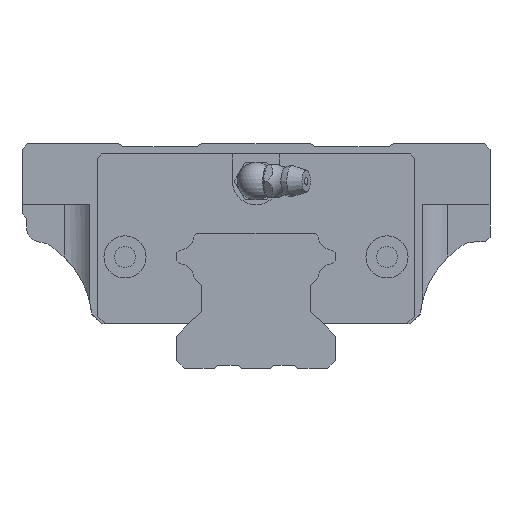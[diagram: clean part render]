
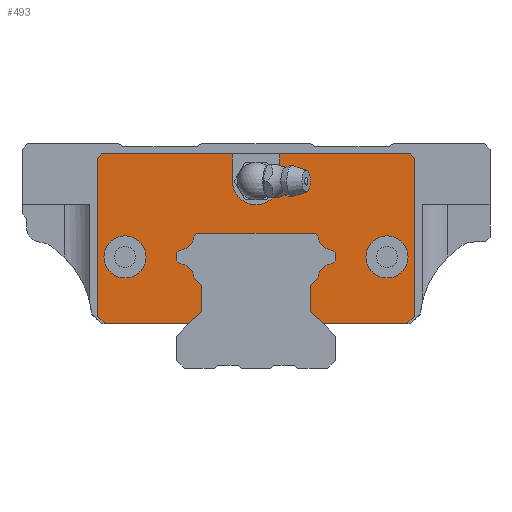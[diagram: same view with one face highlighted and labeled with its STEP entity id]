
A CAD part, front view. The second image highlights one B-rep face of the part: STEP entity #493.
In plain terms, the highlighted planar face has unit normal (0, -1, 0).
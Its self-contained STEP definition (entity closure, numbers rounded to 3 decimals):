
#206=FACE_BOUND('',#1041,.T.);
#207=FACE_BOUND('',#1042,.T.);
#317=CIRCLE('',#3940,3.5);
#319=CIRCLE('',#3946,3.5);
#321=CIRCLE('',#3952,3.5);
#323=CIRCLE('',#3958,3.5);
#331=CIRCLE('',#3996,4.5);
#332=CIRCLE('',#3997,4.5);
#333=CIRCLE('',#3998,5.05);
#493=ADVANCED_FACE('',(#206,#207,#836),#662,.F.);
#662=PLANE('',#3999);
#836=FACE_OUTER_BOUND('',#1043,.T.);
#1041=EDGE_LOOP('',(#1720));
#1042=EDGE_LOOP('',(#1721));
#1043=EDGE_LOOP('',(#1722,#1723,#1724,#1725,#1726,#1727,#1728,#1729,#1730,
#1731,#1732,#1733,#1734,#1735,#1736,#1737,#1738,#1739,#1740,#1741,#1742,
#1743,#1744,#1745,#1746,#1747,#1748,#1749,#1750,#1751,#1752,#1753));
#1720=ORIENTED_EDGE('',*,*,#2884,.F.);
#1721=ORIENTED_EDGE('',*,*,#2885,.F.);
#1722=ORIENTED_EDGE('',*,*,#2886,.F.);
#1723=ORIENTED_EDGE('',*,*,#2887,.F.);
#1724=ORIENTED_EDGE('',*,*,#2888,.T.);
#1725=ORIENTED_EDGE('',*,*,#2881,.F.);
#1726=ORIENTED_EDGE('',*,*,#2889,.F.);
#1727=ORIENTED_EDGE('',*,*,#2890,.F.);
#1728=ORIENTED_EDGE('',*,*,#2891,.T.);
#1729=ORIENTED_EDGE('',*,*,#2786,.T.);
#1730=ORIENTED_EDGE('',*,*,#2790,.T.);
#1731=ORIENTED_EDGE('',*,*,#2793,.F.);
#1732=ORIENTED_EDGE('',*,*,#2796,.F.);
#1733=ORIENTED_EDGE('',*,*,#2799,.T.);
#1734=ORIENTED_EDGE('',*,*,#2802,.F.);
#1735=ORIENTED_EDGE('',*,*,#2805,.F.);
#1736=ORIENTED_EDGE('',*,*,#2808,.T.);
#1737=ORIENTED_EDGE('',*,*,#2811,.T.);
#1738=ORIENTED_EDGE('',*,*,#2814,.T.);
#1739=ORIENTED_EDGE('',*,*,#2817,.T.);
#1740=ORIENTED_EDGE('',*,*,#2820,.F.);
#1741=ORIENTED_EDGE('',*,*,#2823,.T.);
#1742=ORIENTED_EDGE('',*,*,#2826,.F.);
#1743=ORIENTED_EDGE('',*,*,#2829,.T.);
#1744=ORIENTED_EDGE('',*,*,#2832,.T.);
#1745=ORIENTED_EDGE('',*,*,#2835,.T.);
#1746=ORIENTED_EDGE('',*,*,#2838,.T.);
#1747=ORIENTED_EDGE('',*,*,#2841,.T.);
#1748=ORIENTED_EDGE('',*,*,#2844,.F.);
#1749=ORIENTED_EDGE('',*,*,#2846,.F.);
#1750=ORIENTED_EDGE('',*,*,#2892,.T.);
#1751=ORIENTED_EDGE('',*,*,#2893,.F.);
#1752=ORIENTED_EDGE('',*,*,#2894,.F.);
#1753=ORIENTED_EDGE('',*,*,#2878,.F.);
#2371=VERTEX_POINT('',#5822);
#2372=VERTEX_POINT('',#5824);
#2374=VERTEX_POINT('',#5830);
#2376=VERTEX_POINT('',#5836);
#2378=VERTEX_POINT('',#5842);
#2380=VERTEX_POINT('',#5848);
#2382=VERTEX_POINT('',#5854);
#2384=VERTEX_POINT('',#5860);
#2386=VERTEX_POINT('',#5866);
#2388=VERTEX_POINT('',#5872);
#2390=VERTEX_POINT('',#5878);
#2392=VERTEX_POINT('',#5884);
#2394=VERTEX_POINT('',#5890);
#2396=VERTEX_POINT('',#5896);
#2398=VERTEX_POINT('',#5902);
#2400=VERTEX_POINT('',#5908);
#2402=VERTEX_POINT('',#5914);
#2404=VERTEX_POINT('',#5920);
#2406=VERTEX_POINT('',#5926);
#2408=VERTEX_POINT('',#5932);
#2410=VERTEX_POINT('',#5938);
#2411=VERTEX_POINT('',#5942);
#2425=VERTEX_POINT('',#6013);
#2426=VERTEX_POINT('',#6015);
#2427=VERTEX_POINT('',#6018);
#2428=VERTEX_POINT('',#6020);
#2430=VERTEX_POINT('',#6026);
#2431=VERTEX_POINT('',#6028);
#2432=VERTEX_POINT('',#6030);
#2433=VERTEX_POINT('',#6032);
#2434=VERTEX_POINT('',#6035);
#2435=VERTEX_POINT('',#6037);
#2436=VERTEX_POINT('',#6040);
#2437=VERTEX_POINT('',#6042);
#2786=EDGE_CURVE('',#2372,#2371,#3239,.T.);
#2790=EDGE_CURVE('',#2371,#2374,#3243,.T.);
#2793=EDGE_CURVE('',#2376,#2374,#3246,.T.);
#2796=EDGE_CURVE('',#2378,#2376,#3249,.T.);
#2799=EDGE_CURVE('',#2378,#2380,#317,.T.);
#2802=EDGE_CURVE('',#2382,#2380,#3253,.T.);
#2805=EDGE_CURVE('',#2384,#2382,#3256,.T.);
#2808=EDGE_CURVE('',#2384,#2386,#3259,.T.);
#2811=EDGE_CURVE('',#2386,#2388,#319,.T.);
#2814=EDGE_CURVE('',#2388,#2390,#3263,.T.);
#2817=EDGE_CURVE('',#2390,#2392,#3266,.T.);
#2820=EDGE_CURVE('',#2394,#2392,#3269,.T.);
#2823=EDGE_CURVE('',#2394,#2396,#321,.T.);
#2826=EDGE_CURVE('',#2398,#2396,#3273,.T.);
#2829=EDGE_CURVE('',#2398,#2400,#3276,.T.);
#2832=EDGE_CURVE('',#2400,#2402,#3279,.T.);
#2835=EDGE_CURVE('',#2402,#2404,#323,.T.);
#2838=EDGE_CURVE('',#2404,#2406,#3283,.T.);
#2841=EDGE_CURVE('',#2406,#2408,#3286,.T.);
#2844=EDGE_CURVE('',#2410,#2408,#3289,.T.);
#2846=EDGE_CURVE('',#2411,#2410,#3291,.T.);
#2878=EDGE_CURVE('',#2425,#2426,#3316,.T.);
#2881=EDGE_CURVE('',#2427,#2428,#3319,.T.);
#2884=EDGE_CURVE('',#2430,#2430,#331,.T.);
#2885=EDGE_CURVE('',#2431,#2431,#332,.T.);
#2886=EDGE_CURVE('',#2432,#2425,#3322,.T.);
#2887=EDGE_CURVE('',#2433,#2432,#333,.T.);
#2888=EDGE_CURVE('',#2433,#2428,#3323,.T.);
#2889=EDGE_CURVE('',#2434,#2427,#3324,.T.);
#2890=EDGE_CURVE('',#2435,#2434,#3325,.T.);
#2891=EDGE_CURVE('',#2435,#2372,#3326,.T.);
#2892=EDGE_CURVE('',#2411,#2436,#3327,.T.);
#2893=EDGE_CURVE('',#2437,#2436,#3328,.T.);
#2894=EDGE_CURVE('',#2426,#2437,#3329,.T.);
#3239=LINE('',#5823,#3605);
#3243=LINE('',#5831,#3609);
#3246=LINE('',#5837,#3612);
#3249=LINE('',#5843,#3615);
#3253=LINE('',#5855,#3619);
#3256=LINE('',#5861,#3622);
#3259=LINE('',#5867,#3625);
#3263=LINE('',#5879,#3629);
#3266=LINE('',#5885,#3632);
#3269=LINE('',#5891,#3635);
#3273=LINE('',#5903,#3639);
#3276=LINE('',#5909,#3642);
#3279=LINE('',#5915,#3645);
#3283=LINE('',#5927,#3649);
#3286=LINE('',#5933,#3652);
#3289=LINE('',#5939,#3655);
#3291=LINE('',#5943,#3657);
#3316=LINE('',#6014,#3682);
#3319=LINE('',#6019,#3685);
#3322=LINE('',#6029,#3688);
#3323=LINE('',#6033,#3689);
#3324=LINE('',#6034,#3690);
#3325=LINE('',#6036,#3691);
#3326=LINE('',#6038,#3692);
#3327=LINE('',#6039,#3693);
#3328=LINE('',#6041,#3694);
#3329=LINE('',#6043,#3695);
#3605=VECTOR('',#4513,1.);
#3609=VECTOR('',#4519,1.);
#3612=VECTOR('',#4524,1.);
#3615=VECTOR('',#4529,1.);
#3619=VECTOR('',#4541,1.);
#3622=VECTOR('',#4546,1.);
#3625=VECTOR('',#4551,1.);
#3629=VECTOR('',#4563,1.);
#3632=VECTOR('',#4568,1.);
#3635=VECTOR('',#4573,1.);
#3639=VECTOR('',#4585,1.);
#3642=VECTOR('',#4590,1.);
#3645=VECTOR('',#4595,1.);
#3649=VECTOR('',#4607,1.);
#3652=VECTOR('',#4612,1.);
#3655=VECTOR('',#4617,1.);
#3657=VECTOR('',#4621,1.);
#3682=VECTOR('',#4710,1.);
#3685=VECTOR('',#4713,1.);
#3688=VECTOR('',#4722,1.);
#3689=VECTOR('',#4725,1.);
#3690=VECTOR('',#4726,1.);
#3691=VECTOR('',#4727,1.);
#3692=VECTOR('',#4728,1.);
#3693=VECTOR('',#4729,1.);
#3694=VECTOR('',#4730,1.);
#3695=VECTOR('',#4731,1.);
#3940=AXIS2_PLACEMENT_3D('',#5849,#4535,#4536);
#3946=AXIS2_PLACEMENT_3D('',#5873,#4557,#4558);
#3952=AXIS2_PLACEMENT_3D('',#5897,#4579,#4580);
#3958=AXIS2_PLACEMENT_3D('',#5921,#4601,#4602);
#3996=AXIS2_PLACEMENT_3D('',#6025,#4718,#4719);
#3997=AXIS2_PLACEMENT_3D('',#6027,#4720,#4721);
#3998=AXIS2_PLACEMENT_3D('',#6031,#4723,#4724);
#3999=AXIS2_PLACEMENT_3D('',#6044,#4732,#4733);
#4513=DIRECTION('',(1.,0.,0.));
#4519=DIRECTION('',(0.707,0.,0.707));
#4524=DIRECTION('',(0.,0.,-1.));
#4529=DIRECTION('',(0.707,0.,-0.707));
#4535=DIRECTION('',(0.,-1.,0.));
#4536=DIRECTION('',(1.,0.,0.));
#4541=DIRECTION('',(0.707,0.,-0.707));
#4546=DIRECTION('',(0.,0.,-1.));
#4551=DIRECTION('',(0.707,0.,0.707));
#4557=DIRECTION('',(0.,-1.,0.));
#4558=DIRECTION('',(1.,0.,0.));
#4563=DIRECTION('',(0.707,0.,0.707));
#4568=DIRECTION('',(1.,0.,0.));
#4573=DIRECTION('',(-0.707,0.,0.707));
#4579=DIRECTION('',(0.,-1.,0.));
#4580=DIRECTION('',(1.,0.,0.));
#4585=DIRECTION('',(-0.707,0.,0.707));
#4590=DIRECTION('',(0.,0.,-1.));
#4595=DIRECTION('',(-0.707,0.,-0.707));
#4601=DIRECTION('',(0.,-1.,0.));
#4602=DIRECTION('',(1.,0.,0.));
#4607=DIRECTION('',(-0.707,0.,-0.707));
#4612=DIRECTION('',(0.,0.,-1.));
#4617=DIRECTION('',(-0.707,0.,0.707));
#4621=DIRECTION('',(-1.,0.,0.));
#4710=DIRECTION('',(1.,0.,0.));
#4713=DIRECTION('',(1.,0.,0.));
#4718=DIRECTION('',(0.,-1.,0.));
#4719=DIRECTION('',(0.,0.,-1.));
#4720=DIRECTION('',(0.,-1.,0.));
#4721=DIRECTION('',(0.,0.,-1.));
#4722=DIRECTION('',(0.,0.,1.));
#4723=DIRECTION('',(0.,-1.,0.));
#4724=DIRECTION('',(1.,0.,0.));
#4725=DIRECTION('',(0.,0.,1.));
#4726=DIRECTION('',(0.707,0.,0.707));
#4727=DIRECTION('',(0.,0.,1.));
#4728=DIRECTION('',(0.707,0.,-0.707));
#4729=DIRECTION('',(0.707,0.,0.707));
#4730=DIRECTION('',(0.,0.,-1.));
#4731=DIRECTION('',(0.707,0.,-0.707));
#4732=DIRECTION('',(0.,1.,0.));
#4733=DIRECTION('',(0.,0.,-1.));
#5822=CARTESIAN_POINT('',(-14.359,-86.4,-40.5));
#5823=CARTESIAN_POINT('',(-32.218,-86.4,-40.5));
#5824=CARTESIAN_POINT('',(-32.218,-86.4,-40.5));
#5830=CARTESIAN_POINT('',(-11.7,-86.4,-37.841));
#5831=CARTESIAN_POINT('',(-14.359,-86.4,-40.5));
#5836=CARTESIAN_POINT('',(-11.7,-86.4,-32.259));
#5837=CARTESIAN_POINT('',(-11.7,-86.4,-32.259));
#5842=CARTESIAN_POINT('',(-13.204,-86.4,-30.754));
#5843=CARTESIAN_POINT('',(-13.204,-86.4,-30.754));
#5848=CARTESIAN_POINT('',(-16.354,-86.4,-27.604));
#5849=CARTESIAN_POINT('',(-16.688,-86.4,-31.088));
#5854=CARTESIAN_POINT('',(-16.9,-86.4,-27.059));
#5855=CARTESIAN_POINT('',(-16.9,-86.4,-27.059));
#5860=CARTESIAN_POINT('',(-16.9,-86.4,-25.341));
#5861=CARTESIAN_POINT('',(-16.9,-86.4,-25.341));
#5866=CARTESIAN_POINT('',(-16.354,-86.4,-24.796));
#5867=CARTESIAN_POINT('',(-16.9,-86.4,-25.341));
#5872=CARTESIAN_POINT('',(-13.204,-86.4,-21.646));
#5873=CARTESIAN_POINT('',(-16.688,-86.4,-21.312));
#5878=CARTESIAN_POINT('',(-12.659,-86.4,-21.1));
#5879=CARTESIAN_POINT('',(-13.204,-86.4,-21.646));
#5884=CARTESIAN_POINT('',(12.659,-86.4,-21.1));
#5885=CARTESIAN_POINT('',(-12.659,-86.4,-21.1));
#5890=CARTESIAN_POINT('',(13.204,-86.4,-21.646));
#5891=CARTESIAN_POINT('',(13.204,-86.4,-21.646));
#5896=CARTESIAN_POINT('',(16.354,-86.4,-24.796));
#5897=CARTESIAN_POINT('',(16.688,-86.4,-21.312));
#5902=CARTESIAN_POINT('',(16.9,-86.4,-25.341));
#5903=CARTESIAN_POINT('',(16.9,-86.4,-25.341));
#5908=CARTESIAN_POINT('',(16.9,-86.4,-27.059));
#5909=CARTESIAN_POINT('',(16.9,-86.4,-25.341));
#5914=CARTESIAN_POINT('',(16.354,-86.4,-27.604));
#5915=CARTESIAN_POINT('',(16.9,-86.4,-27.059));
#5920=CARTESIAN_POINT('',(13.204,-86.4,-30.754));
#5921=CARTESIAN_POINT('',(16.688,-86.4,-31.088));
#5926=CARTESIAN_POINT('',(11.7,-86.4,-32.259));
#5927=CARTESIAN_POINT('',(13.204,-86.4,-30.754));
#5932=CARTESIAN_POINT('',(11.7,-86.4,-37.841));
#5933=CARTESIAN_POINT('',(11.7,-86.4,-32.259));
#5938=CARTESIAN_POINT('',(14.359,-86.4,-40.5));
#5939=CARTESIAN_POINT('',(14.359,-86.4,-40.5));
#5942=CARTESIAN_POINT('',(32.217,-86.4,-40.5));
#5943=CARTESIAN_POINT('',(32.217,-86.4,-40.5));
#6013=CARTESIAN_POINT('',(5.05,-86.4,-4.2));
#6014=CARTESIAN_POINT('',(-32.917,-86.4,-4.2));
#6015=CARTESIAN_POINT('',(32.917,-86.4,-4.2));
#6018=CARTESIAN_POINT('',(-32.917,-86.4,-4.2));
#6019=CARTESIAN_POINT('',(-32.917,-86.4,-4.2));
#6020=CARTESIAN_POINT('',(-5.05,-86.4,-4.2));
#6025=CARTESIAN_POINT('',(-28.,-86.4,-26.2));
#6026=CARTESIAN_POINT('',(-28.,-86.4,-30.7));
#6027=CARTESIAN_POINT('',(28.,-86.4,-26.2));
#6028=CARTESIAN_POINT('',(28.,-86.4,-30.7));
#6029=CARTESIAN_POINT('',(5.05,-86.4,-10.));
#6030=CARTESIAN_POINT('',(5.05,-86.4,-10.));
#6031=CARTESIAN_POINT('',(0.,-86.4,-10.));
#6032=CARTESIAN_POINT('',(-5.05,-86.4,-10.));
#6033=CARTESIAN_POINT('',(-5.05,-86.4,-10.));
#6034=CARTESIAN_POINT('',(-33.8,-86.4,-5.083));
#6035=CARTESIAN_POINT('',(-33.8,-86.4,-5.083));
#6036=CARTESIAN_POINT('',(-33.8,-86.4,-38.918));
#6037=CARTESIAN_POINT('',(-33.8,-86.4,-38.918));
#6038=CARTESIAN_POINT('',(-33.8,-86.4,-38.918));
#6039=CARTESIAN_POINT('',(32.217,-86.4,-40.5));
#6040=CARTESIAN_POINT('',(33.8,-86.4,-38.917));
#6041=CARTESIAN_POINT('',(33.8,-86.4,-5.083));
#6042=CARTESIAN_POINT('',(33.8,-86.4,-5.083));
#6043=CARTESIAN_POINT('',(32.917,-86.4,-4.2));
#6044=CARTESIAN_POINT('',(16.688,-86.4,-31.088));
